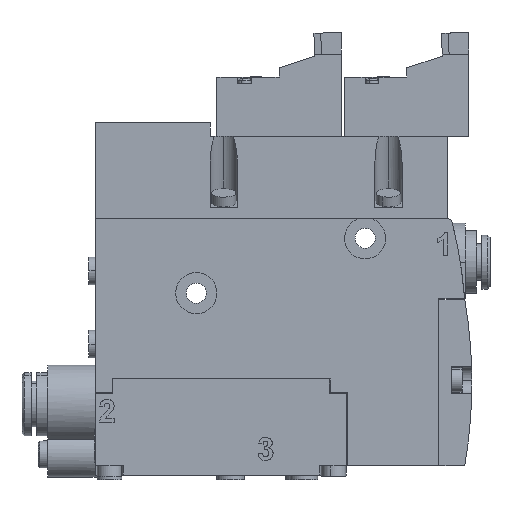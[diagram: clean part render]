
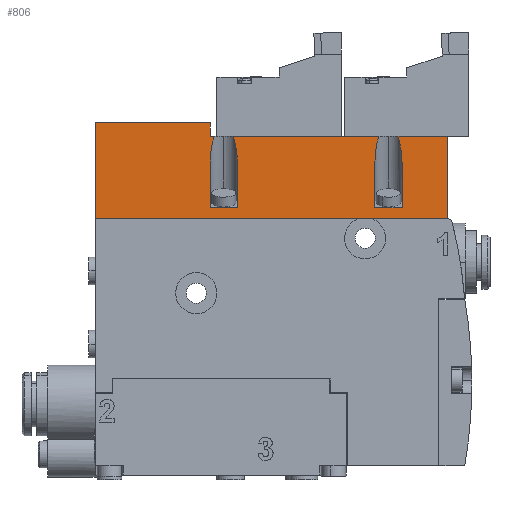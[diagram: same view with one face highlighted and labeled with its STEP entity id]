
A CAD part, front view. The second image highlights one B-rep face of the part: STEP entity #806.
In plain terms, the highlighted planar face has unit normal (0, -1, 0).
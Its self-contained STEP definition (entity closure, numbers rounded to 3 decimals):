
#806=ADVANCED_FACE('NONE',(#2257),#2258,.F.);
#2257=FACE_OUTER_BOUND('',#4562,.T.);
#2258=PLANE('',#4563);
#4562=EDGE_LOOP('',(#8415,#8416,#8417,#8418,#8419,#8420,#8421,#8422,#8423,#8424,#8425,#8426,#8427,#8428,#8429,#8430,#8431,#8432));
#4563=AXIS2_PLACEMENT_3D('',#8433,#8434,#8435);
#8415=ORIENTED_EDGE('',*,*,#14175,.F.);
#8416=ORIENTED_EDGE('',*,*,#14176,.T.);
#8417=ORIENTED_EDGE('',*,*,#14163,.T.);
#8418=ORIENTED_EDGE('',*,*,#14177,.F.);
#8419=ORIENTED_EDGE('',*,*,#14178,.F.);
#8420=ORIENTED_EDGE('',*,*,#14179,.T.);
#8421=ORIENTED_EDGE('',*,*,#14180,.T.);
#8422=ORIENTED_EDGE('',*,*,#14181,.T.);
#8423=ORIENTED_EDGE('',*,*,#14167,.T.);
#8424=ORIENTED_EDGE('',*,*,#14108,.T.);
#8425=ORIENTED_EDGE('',*,*,#14182,.T.);
#8426=ORIENTED_EDGE('',*,*,#14146,.F.);
#8427=ORIENTED_EDGE('',*,*,#14183,.F.);
#8428=ORIENTED_EDGE('',*,*,#14184,.T.);
#8429=ORIENTED_EDGE('',*,*,#14165,.T.);
#8430=ORIENTED_EDGE('',*,*,#14114,.T.);
#8431=ORIENTED_EDGE('',*,*,#14185,.T.);
#8432=ORIENTED_EDGE('',*,*,#14134,.F.);
#8433=CARTESIAN_POINT('',(0.,0.,18.0));
#8434=DIRECTION('',(0.,1.0,0.));
#8435=DIRECTION('',(1.0,0.0,0.));
#14108=EDGE_CURVE('NONE',#16537,#16543,#16545,.T.);
#14114=EDGE_CURVE('NONE',#16548,#16554,#16556,.T.);
#14134=EDGE_CURVE('NONE',#16584,#16586,#16587,.T.);
#14146=EDGE_CURVE('NONE',#16599,#16601,#16602,.T.);
#14163=EDGE_CURVE('NONE',#16627,#16624,#16628,.T.);
#14165=EDGE_CURVE('NONE',#16630,#16548,#16631,.T.);
#14167=EDGE_CURVE('NONE',#16633,#16537,#16634,.T.);
#14175=EDGE_CURVE('NONE',#16645,#16584,#16646,.T.);
#14176=EDGE_CURVE('NONE',#16645,#16627,#16647,.T.);
#14177=EDGE_CURVE('NONE',#16648,#16624,#16649,.T.);
#14178=EDGE_CURVE('NONE',#16650,#16648,#16651,.T.);
#14179=EDGE_CURVE('NONE',#16650,#16652,#16653,.T.);
#14180=EDGE_CURVE('NONE',#16652,#16654,#16655,.T.);
#14181=EDGE_CURVE('NONE',#16654,#16633,#16656,.T.);
#14182=EDGE_CURVE('NONE',#16543,#16601,#16657,.T.);
#14183=EDGE_CURVE('NONE',#16658,#16599,#16659,.T.);
#14184=EDGE_CURVE('NONE',#16658,#16630,#16660,.T.);
#14185=EDGE_CURVE('NONE',#16554,#16586,#16661,.T.);
#16537=VERTEX_POINT('NONE',#20253);
#16543=VERTEX_POINT('NONE',#20270);
#16545=(B_SPLINE_CURVE(3,(#20274,#20275,#20276,#20277),.UNSPECIFIED.,.F.,.F.)B_SPLINE_CURVE_WITH_KNOTS((4,4),(3.91,4.712),.UNSPECIFIED.)RATIONAL_B_SPLINE_CURVE((1.0,0.947,0.947,1.0))BOUNDED_CURVE()REPRESENTATION_ITEM('')GEOMETRIC_REPRESENTATION_ITEM()CURVE());
#16548=VERTEX_POINT('NONE',#20286);
#16554=VERTEX_POINT('NONE',#20303);
#16556=(B_SPLINE_CURVE(3,(#20307,#20308,#20309,#20310),.UNSPECIFIED.,.F.,.F.)B_SPLINE_CURVE_WITH_KNOTS((4,4),(3.91,4.712),.UNSPECIFIED.)RATIONAL_B_SPLINE_CURVE((1.0,0.947,0.947,1.0))BOUNDED_CURVE()REPRESENTATION_ITEM('')GEOMETRIC_REPRESENTATION_ITEM()CURVE());
#16584=VERTEX_POINT('NONE',#20348);
#16586=VERTEX_POINT('NONE',#20351);
#16587=LINE('',#20352,#20353);
#16599=VERTEX_POINT('NONE',#20366);
#16601=VERTEX_POINT('NONE',#20369);
#16602=LINE('',#20370,#20371);
#16624=VERTEX_POINT('NONE',#20400);
#16627=VERTEX_POINT('NONE',#20404);
#16628=LINE('',#20405,#20406);
#16630=VERTEX_POINT('NONE',#20418);
#16631=LINE('',#20419,#20420);
#16633=VERTEX_POINT('NONE',#20432);
#16634=LINE('',#20433,#20434);
#16645=VERTEX_POINT('NONE',#20469);
#16646=LINE('',#20470,#20471);
#16647=(B_SPLINE_CURVE(3,(#20473,#20474,#20475,#20476),.UNSPECIFIED.,.F.,.F.)B_SPLINE_CURVE_WITH_KNOTS((4,4),(1.571,2.373),.UNSPECIFIED.)RATIONAL_B_SPLINE_CURVE((1.0,0.947,0.947,1.0))BOUNDED_CURVE()REPRESENTATION_ITEM('')GEOMETRIC_REPRESENTATION_ITEM()CURVE());
#16648=VERTEX_POINT('NONE',#20483);
#16649=LINE('',#20484,#20485);
#16650=VERTEX_POINT('NONE',#20486);
#16651=LINE('',#20487,#20488);
#16652=VERTEX_POINT('NONE',#20489);
#16653=LINE('',#20490,#20491);
#16654=VERTEX_POINT('NONE',#20492);
#16655=LINE('',#20493,#20494);
#16656=LINE('',#20495,#20496);
#16657=LINE('',#20497,#20498);
#16658=VERTEX_POINT('NONE',#20499);
#16659=LINE('',#20500,#20501);
#16660=(B_SPLINE_CURVE(3,(#20503,#20504,#20505,#20506),.UNSPECIFIED.,.F.,.F.)B_SPLINE_CURVE_WITH_KNOTS((4,4),(1.571,2.373),.UNSPECIFIED.)RATIONAL_B_SPLINE_CURVE((1.0,0.947,0.947,1.0))BOUNDED_CURVE()REPRESENTATION_ITEM('')GEOMETRIC_REPRESENTATION_ITEM()CURVE());
#16661=LINE('',#20513,#20514);
#20253=CARTESIAN_POINT('',(66.086,0.,18.0));
#20270=CARTESIAN_POINT('',(67.0,0.,11.695));
#20274=CARTESIAN_POINT('',(66.086,0.,18.0));
#20275=CARTESIAN_POINT('',(66.678,0.,16.324));
#20276=CARTESIAN_POINT('',(67.0,0.,14.105));
#20277=CARTESIAN_POINT('',(67.0,0.,11.695));
#20286=CARTESIAN_POINT('',(30.086,0.,18.0));
#20303=CARTESIAN_POINT('',(31.0,0.,11.695));
#20307=CARTESIAN_POINT('',(30.086,0.,18.0));
#20308=CARTESIAN_POINT('',(30.678,0.,16.324));
#20309=CARTESIAN_POINT('',(31.0,0.,14.105));
#20310=CARTESIAN_POINT('',(31.0,0.,11.695));
#20348=CARTESIAN_POINT('',(25.0,0.,2.394));
#20351=CARTESIAN_POINT('',(31.0,0.,2.394));
#20352=CARTESIAN_POINT('',(0.,0.,2.394));
#20353=VECTOR('',#26384,1000.0);
#20366=CARTESIAN_POINT('',(61.0,0.,2.394));
#20369=CARTESIAN_POINT('',(67.0,0.,2.394));
#20370=CARTESIAN_POINT('',(0.,0.,2.394));
#20371=VECTOR('',#26402,1000.0);
#20400=CARTESIAN_POINT('',(25.0,0.,18.0));
#20404=CARTESIAN_POINT('',(25.914,0.,18.0));
#20405=CARTESIAN_POINT('',(0.,0.,18.0));
#20406=VECTOR('',#26426,1000.0);
#20418=CARTESIAN_POINT('',(61.914,0.,18.0));
#20419=CARTESIAN_POINT('',(0.,0.,18.0));
#20420=VECTOR('',#26427,1000.0);
#20432=CARTESIAN_POINT('',(77.0,0.,18.0));
#20433=CARTESIAN_POINT('',(0.,0.,18.0));
#20434=VECTOR('',#26428,1000.0);
#20469=CARTESIAN_POINT('',(25.0,0.,11.695));
#20470=CARTESIAN_POINT('',(25.0,0.,18.0));
#20471=VECTOR('',#26433,1000.0);
#20473=CARTESIAN_POINT('',(25.0,0.,11.695));
#20474=CARTESIAN_POINT('',(25.0,0.,14.105));
#20475=CARTESIAN_POINT('',(25.322,0.,16.324));
#20476=CARTESIAN_POINT('',(25.914,0.,18.0));
#20483=CARTESIAN_POINT('',(25.0,0.,21.0));
#20484=CARTESIAN_POINT('',(25.0,0.,21.0));
#20485=VECTOR('',#26434,1000.0);
#20486=CARTESIAN_POINT('',(0.,0.,21.0));
#20487=CARTESIAN_POINT('',(25.0,0.,21.0));
#20488=VECTOR('',#26435,1000.0);
#20489=CARTESIAN_POINT('',(0.,0.,0.));
#20490=CARTESIAN_POINT('',(0.,0.,0.));
#20491=VECTOR('',#26436,1000.0);
#20492=CARTESIAN_POINT('',(77.0,0.,0.));
#20493=CARTESIAN_POINT('',(0.,0.,0.));
#20494=VECTOR('',#26437,1000.0);
#20495=CARTESIAN_POINT('',(77.0,0.,0.));
#20496=VECTOR('',#26438,1000.0);
#20497=CARTESIAN_POINT('',(67.0,0.,18.0));
#20498=VECTOR('',#26439,1000.0);
#20499=CARTESIAN_POINT('',(61.0,0.,11.695));
#20500=CARTESIAN_POINT('',(61.0,0.,18.0));
#20501=VECTOR('',#26440,1000.0);
#20503=CARTESIAN_POINT('',(61.0,0.,11.695));
#20504=CARTESIAN_POINT('',(61.0,0.,14.105));
#20505=CARTESIAN_POINT('',(61.322,0.,16.324));
#20506=CARTESIAN_POINT('',(61.914,0.,18.0));
#20513=CARTESIAN_POINT('',(31.0,0.,18.0));
#20514=VECTOR('',#26441,1000.0);
#26384=DIRECTION('',(1.0,0.,0.));
#26402=DIRECTION('',(1.0,0.,0.));
#26426=DIRECTION('',(-1.0,0.,0.));
#26427=DIRECTION('',(-1.0,0.,0.));
#26428=DIRECTION('',(-1.0,0.,0.));
#26433=DIRECTION('',(0.,0.,-1.0));
#26434=DIRECTION('',(0.,0.,-1.0));
#26435=DIRECTION('',(1.0,0.,0.));
#26436=DIRECTION('',(0.,0.,-1.0));
#26437=DIRECTION('',(1.0,0.,0.));
#26438=DIRECTION('',(0.,0.,1.0));
#26439=DIRECTION('',(0.,0.,-1.0));
#26440=DIRECTION('',(0.,0.,-1.0));
#26441=DIRECTION('',(0.,0.,-1.0));
